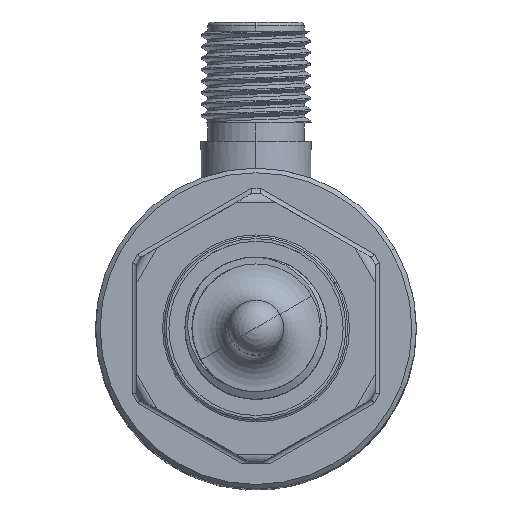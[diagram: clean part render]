
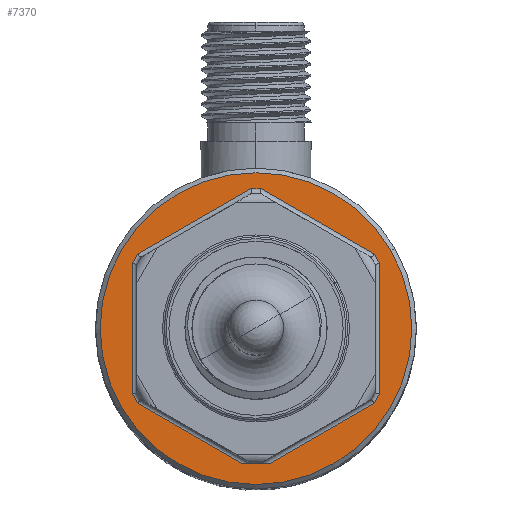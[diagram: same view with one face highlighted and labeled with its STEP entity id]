
A CAD part, top view. The second image highlights one B-rep face of the part: STEP entity #7370.
In plain terms, the highlighted planar face has unit normal (0, 0, 1).
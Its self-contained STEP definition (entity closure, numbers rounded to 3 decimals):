
#60 = CARTESIAN_POINT ( 'NONE',  ( 15.25, 0.567, 0.5 ) ) ;
#78 = CARTESIAN_POINT ( 'NONE',  ( -11.683, 6.745, 0.5 ) ) ;
#107 = ORIENTED_EDGE ( 'NONE', *, *, #3756, .T. ) ;
#123 = DIRECTION ( 'NONE',  ( 1., 0., 0. ) ) ;
#264 = CARTESIAN_POINT ( 'NONE',  ( -17., 0., 0.5 ) ) ;
#274 = ORIENTED_EDGE ( 'NONE', *, *, #3452, .T. ) ;
#279 = EDGE_CURVE ( 'NONE', #1324, #10338, #8196, .T. ) ;
#395 = CARTESIAN_POINT ( 'NONE',  ( -7.625, -13.207, 0.5 ) ) ;
#651 = EDGE_CURVE ( 'NONE', #2207, #10338, #3316, .T. ) ;
#676 = CARTESIAN_POINT ( 'NONE',  ( -7.625, 13.207, 0.5 ) ) ;
#714 = CARTESIAN_POINT ( 'NONE',  ( 15.25, 0., 0.5 ) ) ;
#768 = DIRECTION ( 'NONE',  ( 1., 0., 0. ) ) ;
#782 = ORIENTED_EDGE ( 'NONE', *, *, #4612, .T. ) ;
#786 = DIRECTION ( 'NONE',  ( 0.866, 0.5, 0. ) ) ;
#867 = CARTESIAN_POINT ( 'NONE',  ( 8.616, 12.057, 0.5 ) ) ;
#1087 = CARTESIAN_POINT ( 'NONE',  ( -7.134, 13.49, 0.5 ) ) ;
#1194 = ORIENTED_EDGE ( 'NONE', *, *, #279, .T. ) ;
#1268 = AXIS2_PLACEMENT_3D ( 'NONE', #5024, #7404, #9125 ) ;
#1276 = DIRECTION ( 'NONE',  ( -0.866, 0.5, 0. ) ) ;
#1324 = VERTEX_POINT ( 'NONE', #1087 ) ;
#1650 = VECTOR ( 'NONE', #1276, 1000. ) ;
#1670 = DIRECTION ( 'NONE',  ( 0.5, -0.866, 0. ) ) ;
#1789 = DIRECTION ( 'NONE',  ( 0., 0., 1. ) ) ;
#1825 = VECTOR ( 'NONE', #7160, 1000. ) ;
#2019 = VECTOR ( 'NONE', #8439, 1000. ) ;
#2068 = VECTOR ( 'NONE', #3292, 1000. ) ;
#2207 = VERTEX_POINT ( 'NONE', #867 ) ;
#2292 = CARTESIAN_POINT ( 'NONE',  ( 0., 13.49, 0.5 ) ) ;
#2427 = ORIENTED_EDGE ( 'NONE', *, *, #3515, .T. ) ;
#2529 = EDGE_CURVE ( 'NONE', #2754, #10857, #2874, .T. ) ;
#2615 = VECTOR ( 'NONE', #6920, 1000. ) ;
#2647 = ORIENTED_EDGE ( 'NONE', *, *, #5206, .T. ) ;
#2754 = VERTEX_POINT ( 'NONE', #264 ) ;
#2874 = CIRCLE ( 'NONE', #1268, 17. ) ;
#2930 = VERTEX_POINT ( 'NONE', #8938 ) ;
#3010 = CARTESIAN_POINT ( 'NONE',  ( 6.134, 13.49, 0.5 ) ) ;
#3131 = LINE ( 'NONE', #6492, #2068 ) ;
#3276 = CARTESIAN_POINT ( 'NONE',  ( 15.25, -0.567, 0.5 ) ) ;
#3292 = DIRECTION ( 'NONE',  ( -0.5, -0.866, 0. ) ) ;
#3316 = LINE ( 'NONE', #5070, #2019 ) ;
#3452 = EDGE_CURVE ( 'NONE', #10857, #2754, #4111, .T. ) ;
#3515 = EDGE_CURVE ( 'NONE', #2930, #8215, #9376, .T. ) ;
#3572 = ORIENTED_EDGE ( 'NONE', *, *, #5934, .T. ) ;
#3577 = VECTOR ( 'NONE', #4128, 1000. ) ;
#3756 = EDGE_CURVE ( 'NONE', #10396, #9561, #8272, .T. ) ;
#3779 = CARTESIAN_POINT ( 'NONE',  ( 7.625, -13.207, 0.5 ) ) ;
#3790 = CARTESIAN_POINT ( 'NONE',  ( -7.134, -13.49, 0.5 ) ) ;
#3875 = VECTOR ( 'NONE', #8613, 1000. ) ;
#4111 = CIRCLE ( 'NONE', #10293, 17. ) ;
#4128 = DIRECTION ( 'NONE',  ( 0., -1., 0. ) ) ;
#4164 = LINE ( 'NONE', #10649, #2615 ) ;
#4179 = VERTEX_POINT ( 'NONE', #9655 ) ;
#4310 = LINE ( 'NONE', #5083, #3875 ) ;
#4325 = CARTESIAN_POINT ( 'NONE',  ( 0., 0., 0.5 ) ) ;
#4467 = ORIENTED_EDGE ( 'NONE', *, *, #9748, .T. ) ;
#4582 = VECTOR ( 'NONE', #1670, 1000. ) ;
#4612 = EDGE_CURVE ( 'NONE', #7605, #4179, #4645, .T. ) ;
#4645 = LINE ( 'NONE', #395, #1650 ) ;
#4717 = CARTESIAN_POINT ( 'NONE',  ( -11.683, -6.745, 0.5 ) ) ;
#4902 = PLANE ( 'NONE',  #6362 ) ;
#4958 = FACE_BOUND ( 'NONE', #9405, .T. ) ;
#5024 = CARTESIAN_POINT ( 'NONE',  ( 0., 0., 0.5 ) ) ;
#5034 = ORIENTED_EDGE ( 'NONE', *, *, #9564, .T. ) ;
#5058 = VECTOR ( 'NONE', #8807, 1000. ) ;
#5062 = FACE_OUTER_BOUND ( 'NONE', #6615, .T. ) ;
#5070 = CARTESIAN_POINT ( 'NONE',  ( 7.75, 12.557, 0.5 ) ) ;
#5083 = CARTESIAN_POINT ( 'NONE',  ( -15.25, 0., 0.5 ) ) ;
#5206 = EDGE_CURVE ( 'NONE', #4179, #10947, #8931, .T. ) ;
#5563 = EDGE_CURVE ( 'NONE', #8542, #10510, #8751, .T. ) ;
#5651 = DIRECTION ( 'NONE',  ( 1., 0., 0. ) ) ;
#5689 = ORIENTED_EDGE ( 'NONE', *, *, #651, .F. ) ;
#5693 = LINE ( 'NONE', #676, #9705 ) ;
#5858 = VECTOR ( 'NONE', #5651, 1000. ) ;
#5934 = EDGE_CURVE ( 'NONE', #9561, #8542, #3131, .T. ) ;
#5971 = EDGE_CURVE ( 'NONE', #10510, #7605, #4164, .T. ) ;
#6079 = CARTESIAN_POINT ( 'NONE',  ( 7.134, -13.49, 0.5 ) ) ;
#6362 = AXIS2_PLACEMENT_3D ( 'NONE', #8434, #8328, #768 ) ;
#6492 = CARTESIAN_POINT ( 'NONE',  ( 11.683, -6.745, 0.5 ) ) ;
#6615 = EDGE_LOOP ( 'NONE', ( #10054, #274 ) ) ;
#6920 = DIRECTION ( 'NONE',  ( -1., 0., 0. ) ) ;
#7160 = DIRECTION ( 'NONE',  ( -0.5, 0.866, 0. ) ) ;
#7370 = ADVANCED_FACE ( 'NONE', ( #4958, #5062 ), #4902, .T. ) ;
#7404 = DIRECTION ( 'NONE',  ( 0., 0., 1. ) ) ;
#7605 = VERTEX_POINT ( 'NONE', #3790 ) ;
#8184 = CARTESIAN_POINT ( 'NONE',  ( 11.683, 6.745, 0.5 ) ) ;
#8196 = LINE ( 'NONE', #2292, #5858 ) ;
#8215 = VERTEX_POINT ( 'NONE', #10057 ) ;
#8272 = LINE ( 'NONE', #714, #3577 ) ;
#8328 = DIRECTION ( 'NONE',  ( 0., 0., 1. ) ) ;
#8434 = CARTESIAN_POINT ( 'NONE',  ( 0., 0., 0.5 ) ) ;
#8439 = DIRECTION ( 'NONE',  ( -0.866, 0.5, 0. ) ) ;
#8542 = VERTEX_POINT ( 'NONE', #8920 ) ;
#8613 = DIRECTION ( 'NONE',  ( 0., 1., 0. ) ) ;
#8751 = LINE ( 'NONE', #3779, #5058 ) ;
#8807 = DIRECTION ( 'NONE',  ( -0.866, -0.5, 0. ) ) ;
#8920 = CARTESIAN_POINT ( 'NONE',  ( 8.116, -12.923, 0.5 ) ) ;
#8931 = LINE ( 'NONE', #4717, #1825 ) ;
#8938 = CARTESIAN_POINT ( 'NONE',  ( -15.25, 0.567, 0.5 ) ) ;
#9094 = ORIENTED_EDGE ( 'NONE', *, *, #9481, .T. ) ;
#9125 = DIRECTION ( 'NONE',  ( 1., 0., 0. ) ) ;
#9376 = LINE ( 'NONE', #78, #9588 ) ;
#9405 = EDGE_LOOP ( 'NONE', ( #5689, #5034, #107, #3572, #10664, #10173, #782, #2647, #4467, #2427, #9094, #1194 ) ) ;
#9481 = EDGE_CURVE ( 'NONE', #8215, #1324, #5693, .T. ) ;
#9561 = VERTEX_POINT ( 'NONE', #3276 ) ;
#9564 = EDGE_CURVE ( 'NONE', #2207, #10396, #10742, .T. ) ;
#9588 = VECTOR ( 'NONE', #10249, 1000. ) ;
#9655 = CARTESIAN_POINT ( 'NONE',  ( -8.116, -12.923, 0.5 ) ) ;
#9705 = VECTOR ( 'NONE', #786, 1000. ) ;
#9748 = EDGE_CURVE ( 'NONE', #10947, #2930, #4310, .T. ) ;
#10037 = CARTESIAN_POINT ( 'NONE',  ( -15.25, -0.567, 0.5 ) ) ;
#10054 = ORIENTED_EDGE ( 'NONE', *, *, #2529, .T. ) ;
#10057 = CARTESIAN_POINT ( 'NONE',  ( -8.116, 12.923, 0.5 ) ) ;
#10173 = ORIENTED_EDGE ( 'NONE', *, *, #5971, .T. ) ;
#10249 = DIRECTION ( 'NONE',  ( 0.5, 0.866, 0. ) ) ;
#10293 = AXIS2_PLACEMENT_3D ( 'NONE', #4325, #1789, #123 ) ;
#10338 = VERTEX_POINT ( 'NONE', #3010 ) ;
#10396 = VERTEX_POINT ( 'NONE', #60 ) ;
#10425 = CARTESIAN_POINT ( 'NONE',  ( 17., 0., 0.5 ) ) ;
#10510 = VERTEX_POINT ( 'NONE', #6079 ) ;
#10649 = CARTESIAN_POINT ( 'NONE',  ( 0., -13.49, 0.5 ) ) ;
#10664 = ORIENTED_EDGE ( 'NONE', *, *, #5563, .T. ) ;
#10742 = LINE ( 'NONE', #8184, #4582 ) ;
#10857 = VERTEX_POINT ( 'NONE', #10425 ) ;
#10947 = VERTEX_POINT ( 'NONE', #10037 ) ;
